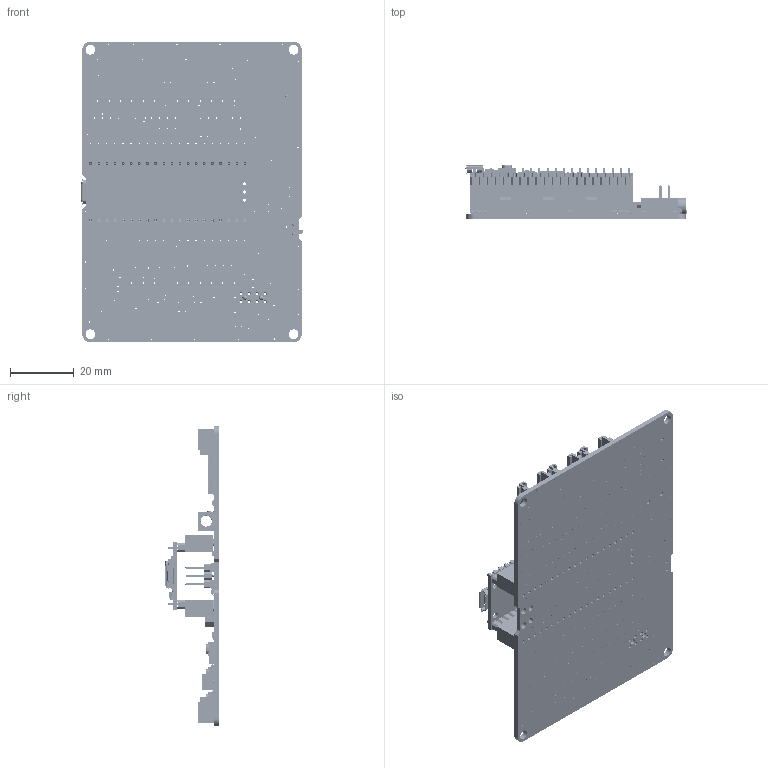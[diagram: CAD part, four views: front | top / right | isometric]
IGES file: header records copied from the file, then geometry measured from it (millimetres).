
Start section: SolidWorks IGES file using analytic representation for surfaces
Global section: file name: D:\Cytron\Technical\MAKER-PI-PICO\maker-pi-pico\Mechanical CAD\3D CAD - MAKER-PI-PICO\MAKER-PI-PICO-NB.IGS; native system: SolidWorks 2015; preprocessor: SolidWorks 2015; author: DIANMIAO; date: 210625.161554; units: millimetre
Bounding box: 69.1 x 17.04 x 93.98 mm (x, y, z)
Surface area: 33360 mm2 (no closed solid volume)
Topology: 0 solids, 0 shells, 16171 faces, 103744 edges, 102788 vertices
Faces by surface type: bspline 12678, revolution 3493
